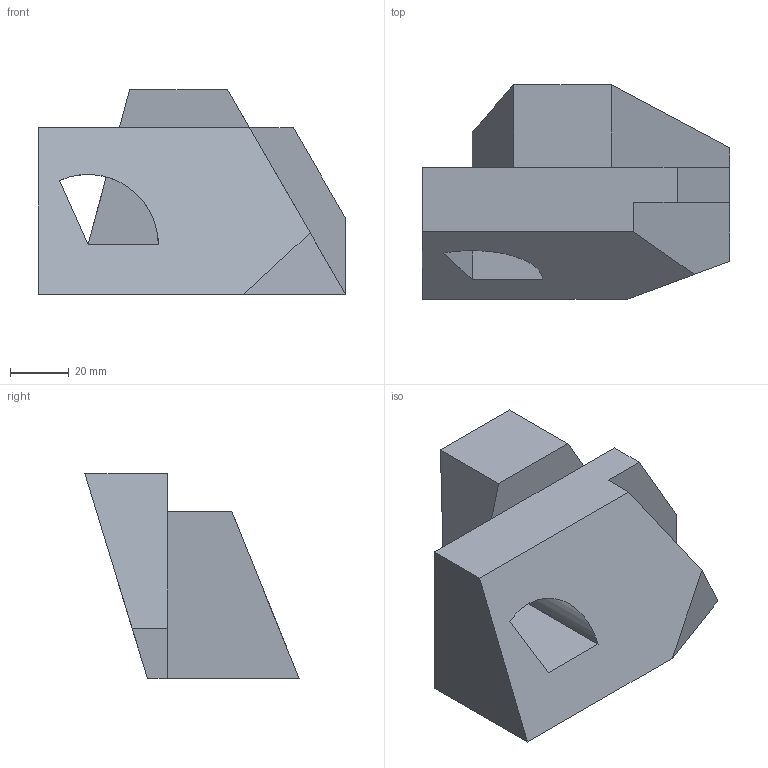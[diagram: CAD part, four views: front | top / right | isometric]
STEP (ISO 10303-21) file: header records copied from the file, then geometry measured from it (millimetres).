
FILE_DESCRIPTION(/* description */ (''),/* implementation_level */ '2;1');
FILE_NAME(/* name */ 'C:\Users\PC-1-18\Desktop\730207R1005\730207R1005.stp',/* time_stamp */ '2023-02-18T10:26:49+09:00',/* author */ ('PC-1-18'),/* organization */ (''),/* preprocessor_version */ 'ST-DEVELOPER v16.1',/* originating_system */ 'Autodesk Inventor 2016',/* authorisation */ '');
FILE_SCHEMA (('AUTOMOTIVE_DESIGN { 1 0 10303 214 3 1 1 }'));
Length unit declared in the file: millimetre
Products named in the file (1): 730207R1005.ipj
Bounding box: 105 x 73.2 x 70 mm (x, y, z)
Volume: 225302.3 mm3; surface area: 30290 mm2
Topology: 1 solids, 1 shells, 22 faces, 54 edges, 33 vertices
Faces by surface type: plane 21, cylinder 1
Entity records: 659 total; most frequent: ORIENTED_EDGE 110, CARTESIAN_POINT 110, DIRECTION 103, EDGE_CURVE 54, LINE 51, VECTOR 51, VERTEX_POINT 33, AXIS2_PLACEMENT_3D 26
